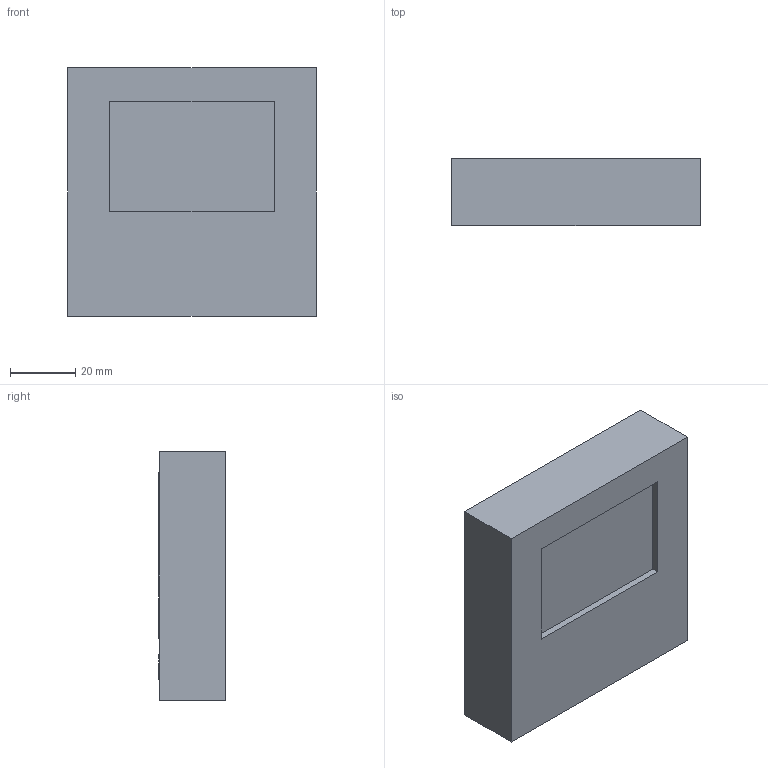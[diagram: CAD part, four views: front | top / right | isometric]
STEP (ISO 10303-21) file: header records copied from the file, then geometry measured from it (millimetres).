
FILE_DESCRIPTION((''),'2;1');
FILE_NAME('MODEL-1','2015-12-02T',('jre'),(''),'PRO/ENGINEER BY PARAMETRIC TECHNOLOGY CORPORATION, 2010280','PRO/ENGINEER BY PARAMETRIC TECHNOLOGY CORPORATION, 2010280','');
FILE_SCHEMA(('CONFIG_CONTROL_DESIGN'));
Length unit declared in the file: inch
Products named in the file (1): MODEL-1
Bounding box: 76.2 x 20.45 x 76.2 mm (x, y, z)
Volume: 114950.7 mm3; surface area: 18191.2 mm2
Topology: 1 solids, 1 shells, 41 faces, 96 edges, 64 vertices
Faces by surface type: plane 36, cylinder 5
Entity records: 1200 total; most frequent: CARTESIAN_POINT 201, ORIENTED_EDGE 192, DIRECTION 188, EDGE_CURVE 96, VECTOR 86, LINE 86, VERTEX_POINT 64, AXIS2_PLACEMENT_3D 51
